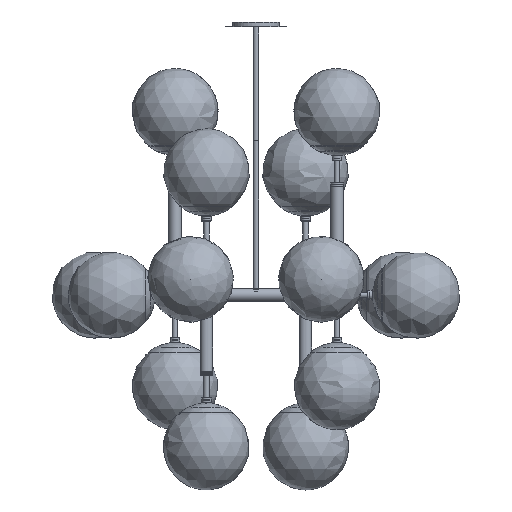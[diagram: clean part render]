
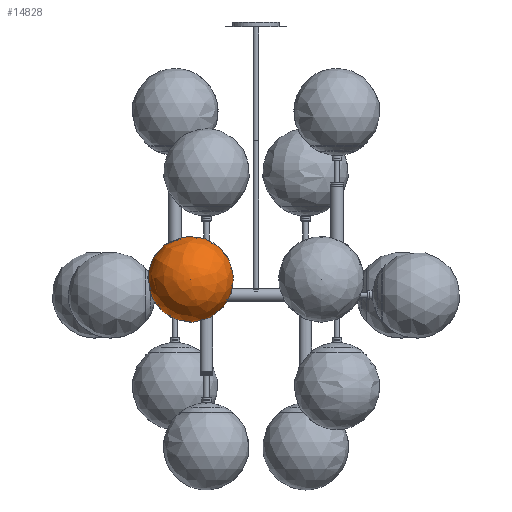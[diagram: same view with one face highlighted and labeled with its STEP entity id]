
A CAD part, front view. The second image highlights one B-rep face of the part: STEP entity #14828.
In plain terms, the highlighted free-form (B-spline) face has degree [2, 2] with [5, 9] control points.
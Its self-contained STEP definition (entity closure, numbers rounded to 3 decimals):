
#221=(
BOUNDED_SURFACE()
B_SPLINE_SURFACE(2,2,((#26313,#26314,#26315,#26316,#26317,#26318,#26319,
#26320,#26321),(#26322,#26323,#26324,#26325,#26326,#26327,#26328,#26329,
#26330),(#26331,#26332,#26333,#26334,#26335,#26336,#26337,#26338,#26339),
(#26340,#26341,#26342,#26343,#26344,#26345,#26346,#26347,#26348),(#26349,
#26350,#26351,#26352,#26353,#26354,#26355,#26356,#26357)),.UNSPECIFIED.,
 .F.,.T.,.F.)
B_SPLINE_SURFACE_WITH_KNOTS((3,2,3),(3,2,2,2,3),(-1.156,0.208,
1.572),(-3.142,-1.571,0.,1.571,
3.142),.UNSPECIFIED.)
GEOMETRIC_REPRESENTATION_ITEM()
RATIONAL_B_SPLINE_SURFACE(((1.,0.707,1.,0.707,1.,
0.707,1.,0.707,1.),(0.776,0.549,
0.776,0.549,0.776,0.549,
0.776,0.549,0.776),(1.,0.707,
1.,0.707,1.,0.707,1.,0.707,1.),(0.776,
0.549,0.776,0.549,0.776,
0.549,0.776,0.549,0.776),
(1.,0.707,1.,0.707,1.,0.707,1.,0.707,
1.)))
REPRESENTATION_ITEM('')
SURFACE()
);
#1876=FACE_OUTER_BOUND('',#3072,.T.);
#3072=EDGE_LOOP('',(#11590,#11591,#11592));
#5776=CIRCLE('',#16568,40.391);
#5778=CIRCLE('',#16570,100.);
#6908=VERTEX_POINT('',#26310);
#6909=VERTEX_POINT('',#26358);
#8582=EDGE_CURVE('',#6908,#6908,#5776,.T.);
#8584=EDGE_CURVE('',#6909,#6908,#5778,.T.);
#11590=ORIENTED_EDGE('',*,*,#8584,.T.);
#11591=ORIENTED_EDGE('',*,*,#8582,.T.);
#11592=ORIENTED_EDGE('',*,*,#8584,.F.);
#14828=ADVANCED_FACE('',(#1876),#221,.F.);
#16568=AXIS2_PLACEMENT_3D('',#26311,#19998,#19999);
#16570=AXIS2_PLACEMENT_3D('',#26359,#20002,#20003);
#19998=DIRECTION('center_axis',(0.,-1.,0.));
#19999=DIRECTION('ref_axis',(0.5,0.,0.866));
#20002=DIRECTION('center_axis',(-0.5,0.,
-0.866));
#20003=DIRECTION('ref_axis',(-0.866,0.,0.5));
#26310=CARTESIAN_POINT('',(-186.48,-417.5,509.224));
#26311=CARTESIAN_POINT('Origin',(-151.5,-417.5,489.029));
#26313=CARTESIAN_POINT('Ctrl Pts',(-186.48,-417.5,509.224));
#26314=CARTESIAN_POINT('Ctrl Pts',(-206.676,-417.5,474.244));
#26315=CARTESIAN_POINT('Ctrl Pts',(-171.696,-417.5,454.049));
#26316=CARTESIAN_POINT('Ctrl Pts',(-136.716,-417.5,433.853));
#26317=CARTESIAN_POINT('Ctrl Pts',(-116.52,-417.5,468.833));
#26318=CARTESIAN_POINT('Ctrl Pts',(-96.324,-417.5,503.813));
#26319=CARTESIAN_POINT('Ctrl Pts',(-131.304,-417.5,524.008));
#26320=CARTESIAN_POINT('Ctrl Pts',(-166.284,-417.5,544.204));
#26321=CARTESIAN_POINT('Ctrl Pts',(-186.48,-417.5,509.224));
#26322=CARTESIAN_POINT('Ctrl Pts',(-250.846,-450.209,
546.386));
#26323=CARTESIAN_POINT('Ctrl Pts',(-308.203,-450.209,
447.04));
#26324=CARTESIAN_POINT('Ctrl Pts',(-208.857,-450.209,
389.683));
#26325=CARTESIAN_POINT('Ctrl Pts',(-109.511,-450.209,
332.325));
#26326=CARTESIAN_POINT('Ctrl Pts',(-52.154,-450.209,
431.671));
#26327=CARTESIAN_POINT('Ctrl Pts',(5.203,-450.209,531.017));
#26328=CARTESIAN_POINT('Ctrl Pts',(-94.143,-450.209,
588.374));
#26329=CARTESIAN_POINT('Ctrl Pts',(-193.489,-450.209,
645.732));
#26330=CARTESIAN_POINT('Ctrl Pts',(-250.846,-450.209,
546.386));
#26331=CARTESIAN_POINT('Ctrl Pts',(-236.335,-529.664,
538.008));
#26332=CARTESIAN_POINT('Ctrl Pts',(-285.314,-529.664,
453.173));
#26333=CARTESIAN_POINT('Ctrl Pts',(-200.479,-529.664,
404.194));
#26334=CARTESIAN_POINT('Ctrl Pts',(-115.645,-529.664,
355.215));
#26335=CARTESIAN_POINT('Ctrl Pts',(-66.665,-529.664,440.049));
#26336=CARTESIAN_POINT('Ctrl Pts',(-17.686,-529.664,
524.884));
#26337=CARTESIAN_POINT('Ctrl Pts',(-102.521,-529.664,
573.863));
#26338=CARTESIAN_POINT('Ctrl Pts',(-187.355,-529.664,
622.842));
#26339=CARTESIAN_POINT('Ctrl Pts',(-236.335,-529.664,
538.008));
#26340=CARTESIAN_POINT('Ctrl Pts',(-221.823,-609.118,
529.63));
#26341=CARTESIAN_POINT('Ctrl Pts',(-262.425,-609.118,
459.306));
#26342=CARTESIAN_POINT('Ctrl Pts',(-192.101,-609.118,
418.705));
#26343=CARTESIAN_POINT('Ctrl Pts',(-121.778,-609.118,
378.104));
#26344=CARTESIAN_POINT('Ctrl Pts',(-81.177,-609.118,
448.427));
#26345=CARTESIAN_POINT('Ctrl Pts',(-40.575,-609.118,
518.751));
#26346=CARTESIAN_POINT('Ctrl Pts',(-110.899,-609.118,
559.352));
#26347=CARTESIAN_POINT('Ctrl Pts',(-181.222,-609.118,
599.953));
#26348=CARTESIAN_POINT('Ctrl Pts',(-221.823,-609.118,
529.63));
#26349=CARTESIAN_POINT('Ctrl Pts',(-151.5,-609.028,489.029));
#26350=CARTESIAN_POINT('Ctrl Pts',(-151.5,-609.028,489.029));
#26351=CARTESIAN_POINT('Ctrl Pts',(-151.5,-609.028,489.029));
#26352=CARTESIAN_POINT('Ctrl Pts',(-151.5,-609.028,489.029));
#26353=CARTESIAN_POINT('Ctrl Pts',(-151.5,-609.028,489.029));
#26354=CARTESIAN_POINT('Ctrl Pts',(-151.5,-609.028,489.029));
#26355=CARTESIAN_POINT('Ctrl Pts',(-151.5,-609.028,489.029));
#26356=CARTESIAN_POINT('Ctrl Pts',(-151.5,-609.028,489.029));
#26357=CARTESIAN_POINT('Ctrl Pts',(-151.5,-609.028,489.029));
#26358=CARTESIAN_POINT('',(-151.5,-609.028,489.029));
#26359=CARTESIAN_POINT('Origin',(-151.596,-509.029,489.084));
